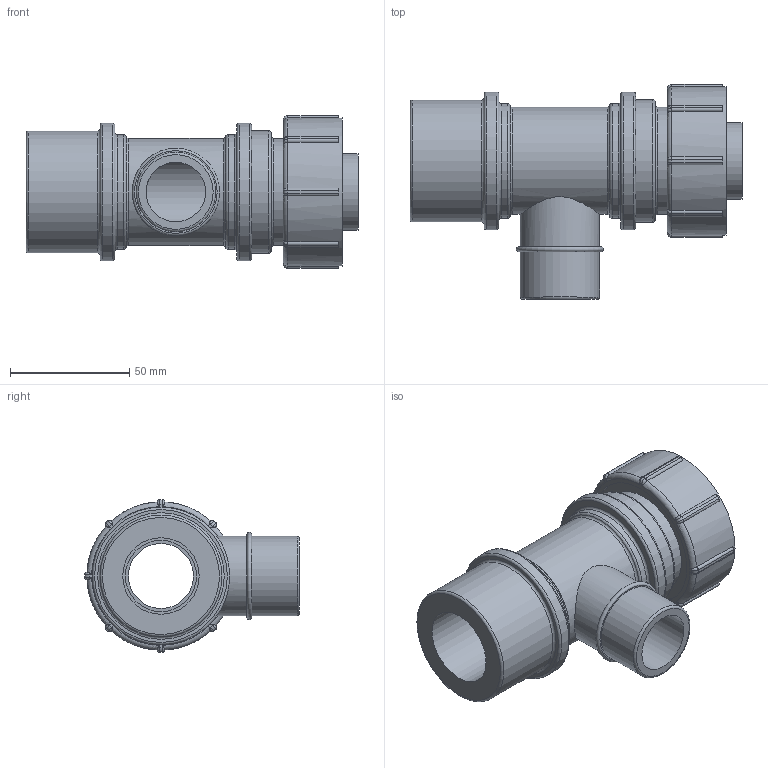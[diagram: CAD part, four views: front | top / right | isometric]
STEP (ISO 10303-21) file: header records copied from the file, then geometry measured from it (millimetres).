
FILE_DESCRIPTION(/* description */ ('PLASSON MODULAR MALE TEE 32-1"-32'),/* implementation_level */ '2;1');
FILE_NAME(/* name */ 'C:\Dropbox\KIMPROJECTS-Inventor\99-16-3568-Processing\Silver+MF ISRAEL\0784L6\0784L60320100A.ipt.stp',/* time_stamp */ '2018-04-09T13:01:17+03:00',/* author */ ('KIM'),/* organization */ (''),/* preprocessor_version */ 'ST-DEVELOPER v15.6',/* originating_system */ 'Autodesk Inventor 2015',/* authorisation */ '');
FILE_SCHEMA (('AUTOMOTIVE_DESIGN { 1 0 10303 214 3 1 1 }'));
Length unit declared in the file: millimetre
Products named in the file (1): 0784L60320100A
Bounding box: 139 x 90 x 64 mm (x, y, z)
Volume: 192770.6 mm3; surface area: 50977 mm2
Topology: 1 solids, 1 shells, 162 faces, 380 edges, 234 vertices
Faces by surface type: cylinder 58, plane 48, bspline 32, torus 24
Full cylindrical faces by diameter (mm): 24.937 x1, 27.2 x1, 29.76 x1, 32 x2, 33.249 x2, 44.8 x2, 48 x2, 51 x1, 51.2 x1, 54.4 x1, 57.6 x2, 58.88 x1, 62.08 x1
Entity records: 4872 total; most frequent: CARTESIAN_POINT 1393, DIRECTION 734, ORIENTED_EDGE 676, EDGE_CURVE 338, AXIS2_PLACEMENT_3D 315, VERTEX_POINT 226, EDGE_LOOP 214, CIRCLE 184
